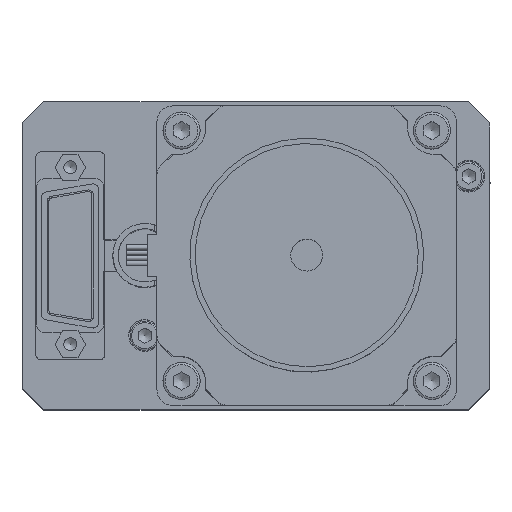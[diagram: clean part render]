
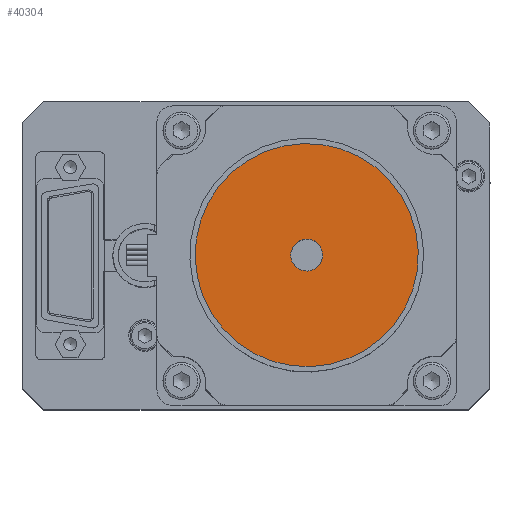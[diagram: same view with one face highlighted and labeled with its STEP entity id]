
A CAD part, top view. The second image highlights one B-rep face of the part: STEP entity #40304.
In plain terms, the highlighted planar face has unit normal (0, 0, 1).
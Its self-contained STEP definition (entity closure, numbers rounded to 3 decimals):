
#40277=CARTESIAN_POINT('',(36.258,31.537,129.5));
#40278=DIRECTION('',(0.0,0.0,1.0));
#40279=DIRECTION('',(0.791,-0.612,0.0));
#40280=AXIS2_PLACEMENT_3D('',#40277,#40278,#40279);
#40281=PLANE('',#40280);
#40282=CARTESIAN_POINT('',(41.767,38.654,129.5));
#40283=VERTEX_POINT('',#40282);
#40284=CARTESIAN_POINT('',(28.912,22.048,129.5));
#40285=DIRECTION('',(0.,0.,1.0));
#40286=DIRECTION('',(0.612,0.791,0.));
#40287=AXIS2_PLACEMENT_3D('',#40284,#40285,#40286);
#40288=CIRCLE('',#40287,21.0);
#40289=EDGE_CURVE('',#40283,#40283,#40288,.T.);
#40290=ORIENTED_EDGE('',*,*,#40289,.T.);
#40291=EDGE_LOOP('',(#40290));
#40292=FACE_OUTER_BOUND('',#40291,.T.);
#40293=CARTESIAN_POINT('',(30.749,24.42,129.5));
#40294=VERTEX_POINT('',#40293);
#40295=CARTESIAN_POINT('',(28.912,22.048,129.5));
#40296=DIRECTION('',(0.,0.,1.));
#40297=DIRECTION('',(0.612,0.791,0.));
#40298=AXIS2_PLACEMENT_3D('',#40295,#40296,#40297);
#40299=CIRCLE('',#40298,3.);
#40300=EDGE_CURVE('',#40294,#40294,#40299,.T.);
#40301=ORIENTED_EDGE('',*,*,#40300,.F.);
#40302=EDGE_LOOP('',(#40301));
#40303=FACE_BOUND('',#40302,.T.);
#40304=ADVANCED_FACE('',(#40292,#40303),#40281,.T.);
